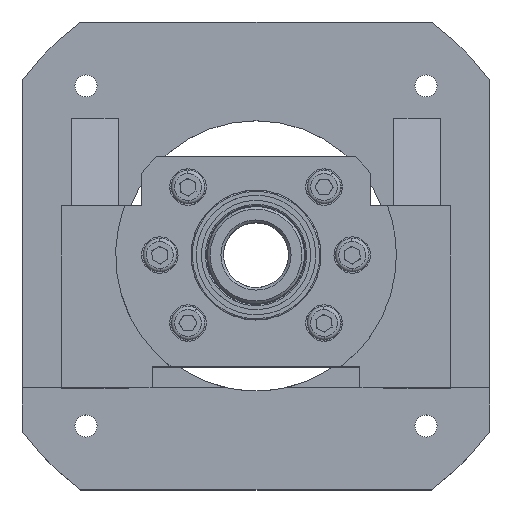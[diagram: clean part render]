
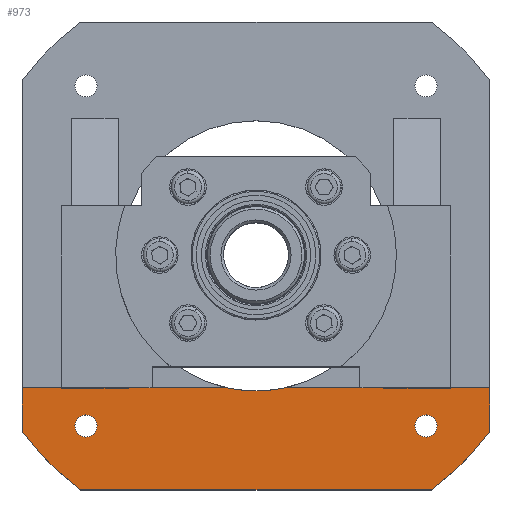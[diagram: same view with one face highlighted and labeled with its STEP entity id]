
A CAD part, top view. The second image highlights one B-rep face of the part: STEP entity #973.
In plain terms, the highlighted planar face has unit normal (0, 0, 1).
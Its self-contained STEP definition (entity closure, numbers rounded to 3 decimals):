
#175 = ORIENTED_EDGE ( 'NONE', *, *, #19011, .T. ) ;
#286 = DIRECTION ( 'NONE',  ( 0., 0., 1. ) ) ;
#749 = DIRECTION ( 'NONE',  ( 1., 0., 0. ) ) ;
#874 = CARTESIAN_POINT ( 'NONE',  ( -11.555, -50.7, 21. ) ) ;
#942 = VERTEX_POINT ( 'NONE', #874 ) ;
#973 = ADVANCED_FACE ( 'NONE', ( #13908, #14896, #2010 ), #11726, .T. ) ;
#1281 = EDGE_LOOP ( 'NONE', ( #3471, #175, #13571, #5345, #3601, #6426, #5244, #10905 ) ) ;
#1793 = VERTEX_POINT ( 'NONE', #4537 ) ;
#2010 = FACE_OUTER_BOUND ( 'NONE', #1281, .T. ) ;
#2040 = AXIS2_PLACEMENT_3D ( 'NONE', #3995, #17976, #8681 ) ;
#2138 = VERTEX_POINT ( 'NONE', #15656 ) ;
#2381 = CARTESIAN_POINT ( 'NONE',  ( -90., -67.5, 21. ) ) ;
#2604 = CARTESIAN_POINT ( 'NONE',  ( -104.626, -50.7, 21. ) ) ;
#3146 = DIRECTION ( 'NONE',  ( 0., 0., 1. ) ) ;
#3212 = DIRECTION ( 'NONE',  ( 0., -1., 0. ) ) ;
#3271 = EDGE_CURVE ( 'NONE', #17994, #942, #17945, .T. ) ;
#3471 = ORIENTED_EDGE ( 'NONE', *, *, #8502, .T. ) ;
#3601 = ORIENTED_EDGE ( 'NONE', *, *, #18151, .T. ) ;
#3900 = CARTESIAN_POINT ( 'NONE',  ( -90., -50.7, 21. ) ) ;
#3995 = CARTESIAN_POINT ( 'NONE',  ( -104.626, -111., 21. ) ) ;
#4039 = CARTESIAN_POINT ( 'NONE',  ( 65.407, -65.407, 21. ) ) ;
#4160 = VERTEX_POINT ( 'NONE', #16279 ) ;
#4537 = CARTESIAN_POINT ( 'NONE',  ( 69.657, -65.407, 21. ) ) ;
#4924 = AXIS2_PLACEMENT_3D ( 'NONE', #8923, #19794, #10483 ) ;
#5244 = ORIENTED_EDGE ( 'NONE', *, *, #3271, .T. ) ;
#5345 = ORIENTED_EDGE ( 'NONE', *, *, #15640, .T. ) ;
#5618 = DIRECTION ( 'NONE',  ( 1., 0., 0. ) ) ;
#5881 = CARTESIAN_POINT ( 'NONE',  ( -69.657, -65.407, 21. ) ) ;
#6191 = EDGE_CURVE ( 'NONE', #1793, #4160, #16843, .T. ) ;
#6198 = VECTOR ( 'NONE', #13670, 1000. ) ;
#6426 = ORIENTED_EDGE ( 'NONE', *, *, #16325, .F. ) ;
#6840 = LINE ( 'NONE', #12485, #18736 ) ;
#6951 = VERTEX_POINT ( 'NONE', #2381 ) ;
#7163 = CIRCLE ( 'NONE', #4924, 112.5 ) ;
#7463 = DIRECTION ( 'NONE',  ( 0., 0., -1. ) ) ;
#7858 = ORIENTED_EDGE ( 'NONE', *, *, #11853, .F. ) ;
#8419 = CARTESIAN_POINT ( 'NONE',  ( 90., -50.7, 21. ) ) ;
#8440 = AXIS2_PLACEMENT_3D ( 'NONE', #9599, #286, #11156 ) ;
#8471 = CARTESIAN_POINT ( 'NONE',  ( 65.407, -65.407, 21. ) ) ;
#8502 = EDGE_CURVE ( 'NONE', #17222, #6951, #6840, .T. ) ;
#8681 = DIRECTION ( 'NONE',  ( 1., 0., 0. ) ) ;
#8694 = AXIS2_PLACEMENT_3D ( 'NONE', #12420, #3146, #13980 ) ;
#8923 = CARTESIAN_POINT ( 'NONE',  ( 0., 0., 21. ) ) ;
#9182 = EDGE_CURVE ( 'NONE', #2138, #13917, #16531, .T. ) ;
#9408 = EDGE_LOOP ( 'NONE', ( #9728, #14836 ) ) ;
#9599 = CARTESIAN_POINT ( 'NONE',  ( -65.407, -65.407, 21. ) ) ;
#9728 = ORIENTED_EDGE ( 'NONE', *, *, #18512, .F. ) ;
#9745 = ORIENTED_EDGE ( 'NONE', *, *, #6191, .F. ) ;
#9788 = EDGE_CURVE ( 'NONE', #10691, #15051, #16285, .T. ) ;
#10043 = DIRECTION ( 'NONE',  ( 1., 0., 0. ) ) ;
#10046 = DIRECTION ( 'NONE',  ( 0., 0., 1. ) ) ;
#10319 = VECTOR ( 'NONE', #16580, 1000. ) ;
#10334 = LINE ( 'NONE', #19883, #6198 ) ;
#10374 = AXIS2_PLACEMENT_3D ( 'NONE', #8471, #19337, #10043 ) ;
#10483 = DIRECTION ( 'NONE',  ( 1., 0., 0. ) ) ;
#10691 = VERTEX_POINT ( 'NONE', #13280 ) ;
#10853 = VECTOR ( 'NONE', #12494, 1000. ) ;
#10905 = ORIENTED_EDGE ( 'NONE', *, *, #18945, .F. ) ;
#10965 = CARTESIAN_POINT ( 'NONE',  ( -104.626, -50.7, 21. ) ) ;
#11156 = DIRECTION ( 'NONE',  ( 1., 0., 0. ) ) ;
#11430 = CARTESIAN_POINT ( 'NONE',  ( -90., -90., 21. ) ) ;
#11726 = PLANE ( 'NONE',  #2040 ) ;
#11853 = EDGE_CURVE ( 'NONE', #4160, #1793, #12804, .T. ) ;
#11924 = VECTOR ( 'NONE', #17664, 1000. ) ;
#12329 = AXIS2_PLACEMENT_3D ( 'NONE', #19341, #10046, #749 ) ;
#12420 = CARTESIAN_POINT ( 'NONE',  ( 0., 0., 21. ) ) ;
#12462 = AXIS2_PLACEMENT_3D ( 'NONE', #4039, #14889, #5618 ) ;
#12485 = CARTESIAN_POINT ( 'NONE',  ( -90., 90., 21. ) ) ;
#12494 = DIRECTION ( 'NONE',  ( 1., 0., 0. ) ) ;
#12804 = CIRCLE ( 'NONE', #12462, 4.25 ) ;
#13088 = CARTESIAN_POINT ( 'NONE',  ( 11.555, -50.7, 21. ) ) ;
#13280 = CARTESIAN_POINT ( 'NONE',  ( -61.157, -65.407, 21. ) ) ;
#13571 = ORIENTED_EDGE ( 'NONE', *, *, #9182, .T. ) ;
#13670 = DIRECTION ( 'NONE',  ( 0., 1., 0. ) ) ;
#13778 = CARTESIAN_POINT ( 'NONE',  ( 67.5, -90., 21. ) ) ;
#13908 = FACE_BOUND ( 'NONE', #19145, .T. ) ;
#13917 = VERTEX_POINT ( 'NONE', #13778 ) ;
#13980 = DIRECTION ( 'NONE',  ( 1., 0., 0. ) ) ;
#14334 = VERTEX_POINT ( 'NONE', #8419 ) ;
#14417 = LINE ( 'NONE', #2604, #10319 ) ;
#14682 = CIRCLE ( 'NONE', #8440, 4.25 ) ;
#14836 = ORIENTED_EDGE ( 'NONE', *, *, #9788, .F. ) ;
#14889 = DIRECTION ( 'NONE',  ( 0., 0., 1. ) ) ;
#14896 = FACE_BOUND ( 'NONE', #9408, .T. ) ;
#15051 = VERTEX_POINT ( 'NONE', #5881 ) ;
#15640 = EDGE_CURVE ( 'NONE', #13917, #18823, #17656, .T. ) ;
#15656 = CARTESIAN_POINT ( 'NONE',  ( -67.5, -90., 21. ) ) ;
#16279 = CARTESIAN_POINT ( 'NONE',  ( 61.157, -65.407, 21. ) ) ;
#16285 = CIRCLE ( 'NONE', #12329, 4.25 ) ;
#16325 = EDGE_CURVE ( 'NONE', #17994, #14334, #19110, .T. ) ;
#16531 = LINE ( 'NONE', #11430, #11924 ) ;
#16580 = DIRECTION ( 'NONE',  ( 1., 0., 0. ) ) ;
#16752 = CARTESIAN_POINT ( 'NONE',  ( 0., 0., 21. ) ) ;
#16843 = CIRCLE ( 'NONE', #10374, 4.25 ) ;
#17214 = AXIS2_PLACEMENT_3D ( 'NONE', #16752, #7463, #18320 ) ;
#17222 = VERTEX_POINT ( 'NONE', #3900 ) ;
#17656 = CIRCLE ( 'NONE', #8694, 112.5 ) ;
#17664 = DIRECTION ( 'NONE',  ( 1., 0., 0. ) ) ;
#17945 = CIRCLE ( 'NONE', #17214, 52. ) ;
#17976 = DIRECTION ( 'NONE',  ( 0., 0., 1. ) ) ;
#17994 = VERTEX_POINT ( 'NONE', #13088 ) ;
#18151 = EDGE_CURVE ( 'NONE', #18823, #14334, #10334, .T. ) ;
#18320 = DIRECTION ( 'NONE',  ( 1., 0., 0. ) ) ;
#18512 = EDGE_CURVE ( 'NONE', #15051, #10691, #14682, .T. ) ;
#18736 = VECTOR ( 'NONE', #3212, 1000. ) ;
#18823 = VERTEX_POINT ( 'NONE', #19526 ) ;
#18945 = EDGE_CURVE ( 'NONE', #17222, #942, #14417, .T. ) ;
#19011 = EDGE_CURVE ( 'NONE', #6951, #2138, #7163, .T. ) ;
#19110 = LINE ( 'NONE', #10965, #10853 ) ;
#19145 = EDGE_LOOP ( 'NONE', ( #7858, #9745 ) ) ;
#19337 = DIRECTION ( 'NONE',  ( 0., 0., 1. ) ) ;
#19341 = CARTESIAN_POINT ( 'NONE',  ( -65.407, -65.407, 21. ) ) ;
#19526 = CARTESIAN_POINT ( 'NONE',  ( 90., -67.5, 21. ) ) ;
#19794 = DIRECTION ( 'NONE',  ( 0., 0., 1. ) ) ;
#19883 = CARTESIAN_POINT ( 'NONE',  ( 90., 90., 21. ) ) ;
